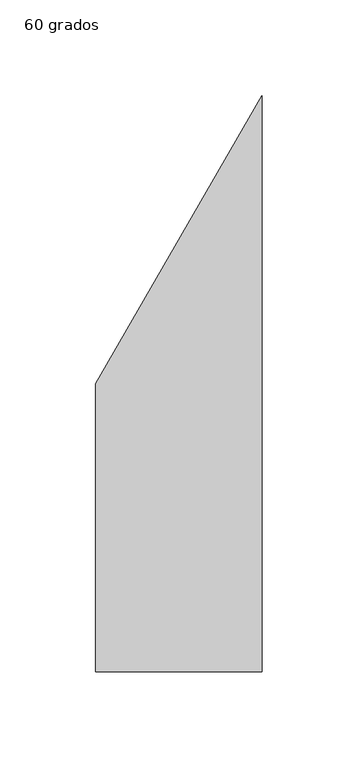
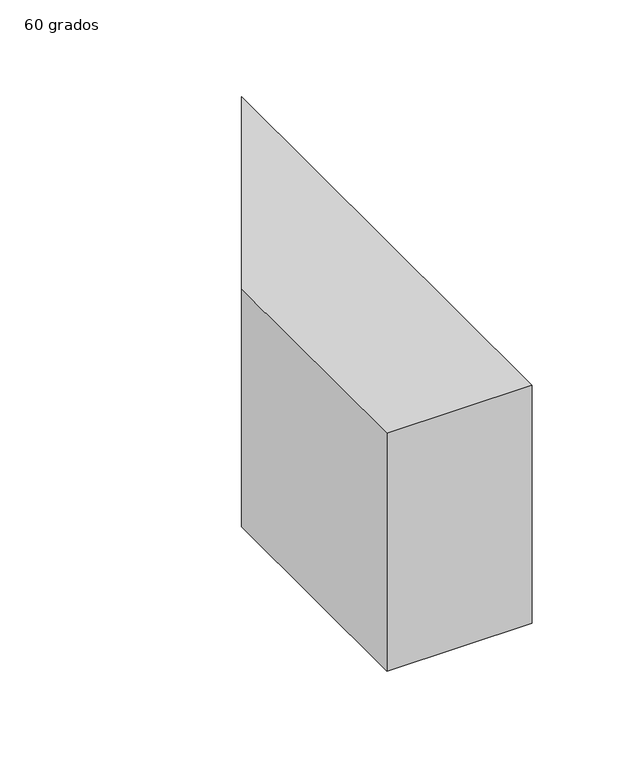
"""IFC4 building model written with IfcOpenShell, lengths in millimetres: duct fitting geometry, M_Transición rectangular - Ángulo : 60 grados."""

from ifc_helpers import new_model, si_unit, frame, origin, place, context, project, spatial, polyline, outline, extrude, source, transform, mapped, element, save


def duct_fitting_60_grados_c34aa1e9(model_context):
    return source(origin(), model_context, "Body", "SweptSolid", [
        extrude(outline(polyline([(0.0, -75.0), (0.0, 75.0), (86.6025404, 225.0), (86.6025404, -75.0), (0.0, -75.0)])), frame((0.0, 0.0, -75.0), z_axis=(0.0, 0.0, 1.0), x_axis=(1.0, 0.0, 0.0)), (0.0, 0.0, 1.0), 150.0),
    ])


if __name__ == "__main__":
    model = new_model("IFC4")
    model_context = context("Model", 3, world=origin())
    ifc_project = project(units=[si_unit("LENGTHUNIT", "METRE", prefix="MILLI")], contexts=[model_context])
    site = spatial("IfcSite", under=ifc_project)
    building = spatial("IfcBuilding", under=site)
    placement = place(None, origin())
    duct_fitting_60_grados_shape = duct_fitting_60_grados_c34aa1e9(model_context)
    element("IfcDuctFitting", 1, ObjectType="M_Transición rectangular - Ángulo : 60 grados", at=placement, inside=building, context=model_context, shape_type="MappedRepresentation", body=[
        mapped(duct_fitting_60_grados_shape, transform((0.0, 0.0, 0.0), x_axis=(1.0, 0.0, 0.0), y_axis=(0.0, 1.0, 0.0), z_axis=(0.0, 0.0, 1.0))),
    ])
    save(model, "model.ifc")
